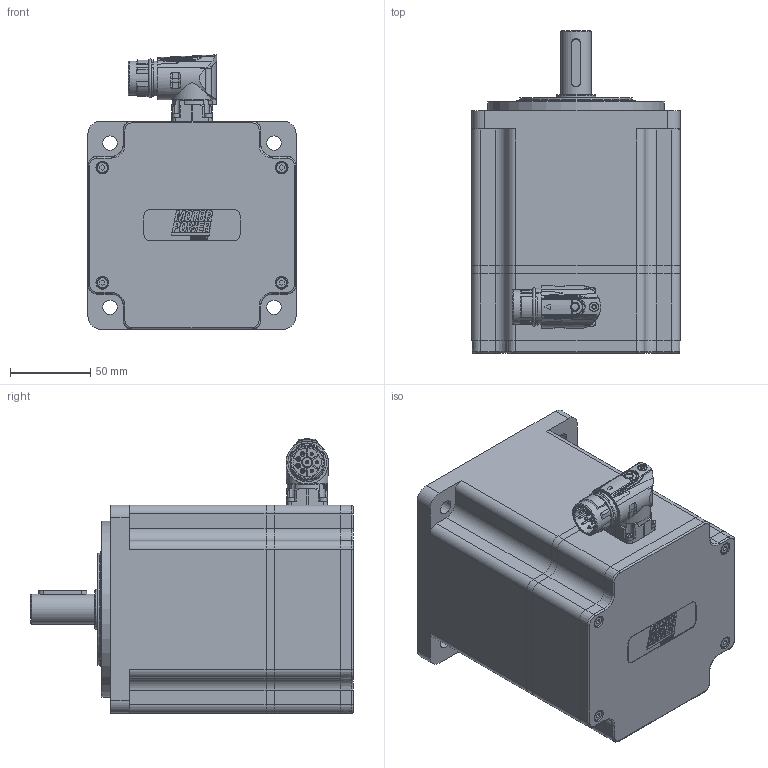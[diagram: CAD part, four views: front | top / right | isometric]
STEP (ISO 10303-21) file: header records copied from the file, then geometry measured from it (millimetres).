
FILE_DESCRIPTION(/* description */ ('Unknown'),/* implementation_level */ '2;1');
FILE_NAME(/* name */ 'TC4-130.5F.XX.X. 3.M1.0.1.C21 Q0C601',/* time_stamp */ '2026-03-05T11:59:35+01:00',/* author */ ('Unknown'),/* organization */ ('Unknown'),/* preprocessor_version */ 'ST-DEVELOPER v19.4',/* originating_system */ 'Solid Edge',/* authorisation */ 'Unknown');
FILE_SCHEMA (('AUTOMOTIVE_DESIGN {1 0 10303 214 3 1 1}'));
Products named in the file (13): Q0C601 5F M1 VUOTO; 005119002009; 005911000432; 005911000185; 003251022006; 003155002232; Albero TC4 130 5F M1; 005113000500; Corpo TC4-130 5F; 007117000456; 005911000180; 003103040232; 003107003290
Assembly tree (23 placements, depth 2):
  Q0C601 5F M1 VUOTO
    005119002009
    005911000432  x6
    005911000185  x4
    003251022006
    003155002232
    Albero TC4 130 5F M1
    005113000500
    Corpo TC4-130 5F
    007117000456
    005911000180  x4
    003103040232
    003107003290
Bounding box: 130 x 201.5 x 171.5 mm (x, y, z)
Volume: 961471.6 mm3; surface area: 309450.4 mm2
Topology: 25 solids, 25 shells, 1618 faces, 4074 edges, 2621 vertices
Faces by surface type: plane 770, cylinder 383, bspline 188, cone 148, torus 103, sphere 26
Full cylindrical faces by diameter (mm): 1 x4, 1.4 x4, 2 x4, 2.013 x8, 2.459 x2, 2.5 x4, 2.8 x4, 3 x8, 3.242 x26, 4 x11, 4.134 x8, 4.5 x19, 4.7 x4, 4.917 x2, 5.5 x5, 5.8 x1, 5.9 x1, 6 x5, 6.8 x1, 7 x10, 8 x12, 10 x1, 10.4 x4, 16 x1, 17.4 x1, 19 x1, 19.9 x1, 20 x2, 21.15 x2, 21.6 x1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
Entity records: 57071 total; most frequent: CARTESIAN_POINT 14640, ORIENTED_EDGE 6688, DIRECTION 6334, EDGE_CURVE 3344, AXIS2_PLACEMENT_3D 2355, VERTEX_POINT 2315, FACE_BOUND 1933, EDGE_LOOP 1912
